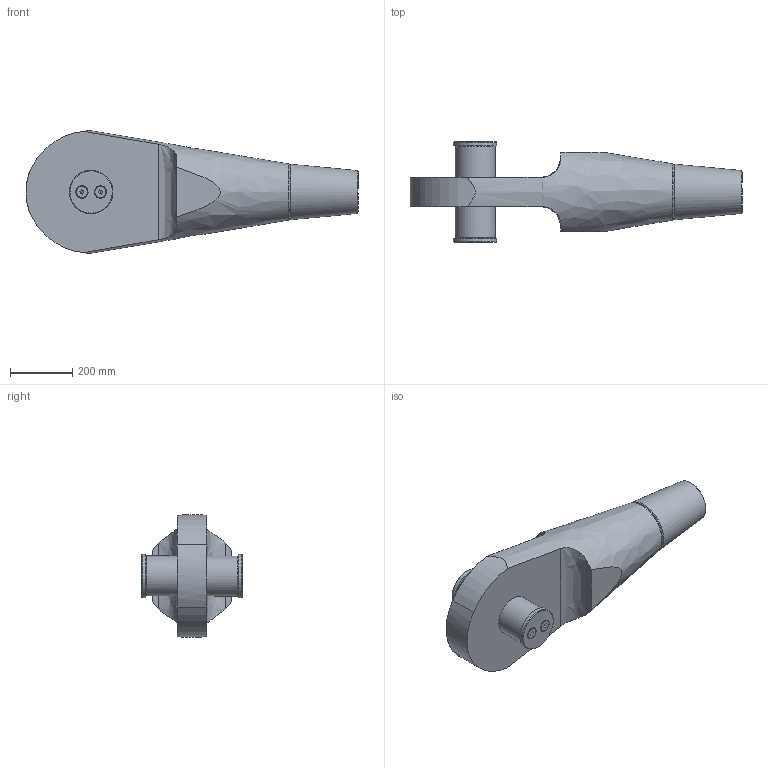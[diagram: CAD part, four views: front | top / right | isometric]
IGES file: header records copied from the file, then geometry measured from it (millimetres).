
Global section: file name: 520-120-OES; native system: Autodesk Inventor 2016; preprocessor: unknown; author: Administrator; date: 20200626.104227; units: centimetre
Bounding box: 1069.89 x 327 x 394.2 mm (x, y, z)
Volume: 37699229.8 mm3; surface area: 1115480.9 mm2
Topology: 3 solids, 10 shells, 104 faces, 266 edges, 182 vertices
Faces by surface type: bspline 104
